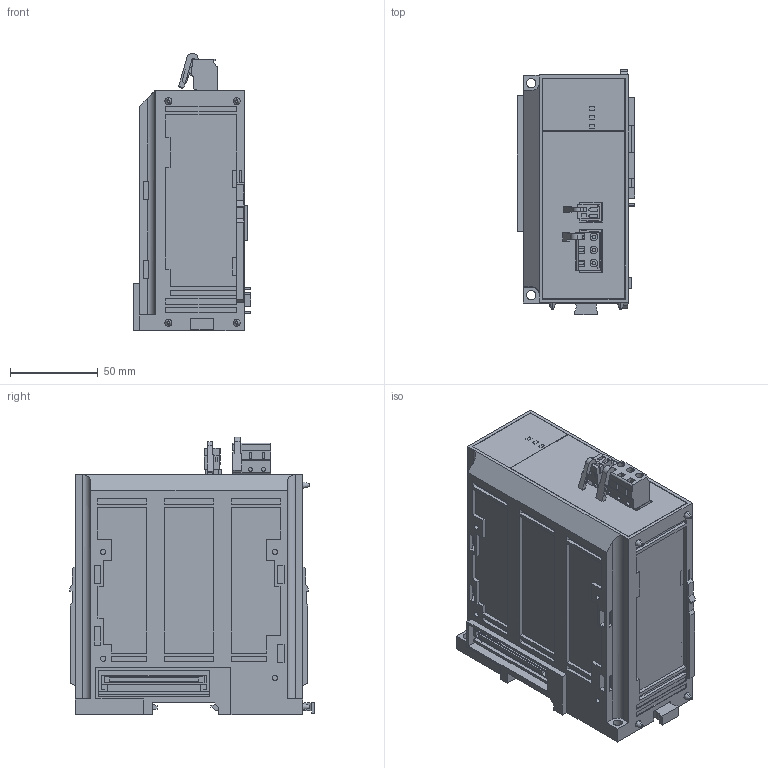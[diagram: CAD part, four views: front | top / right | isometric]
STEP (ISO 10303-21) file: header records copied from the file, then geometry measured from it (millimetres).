
FILE_DESCRIPTION (( 'STEP AP203' ), '1' );
FILE_NAME ('jepmc_psa3012_e.STEP', '2012-08-21T04:27:11', ( '匠エンジニアリング山之内' ), ( 'TAKUMI-Engniaring' ), 'SwSTEP 2.0', 'SolidWorks 2006303', '' );
FILE_SCHEMA (( 'CONFIG_CONTROL_DESIGN' ));
Length unit declared in the file: millimetre
Products named in the file (8): jepmc_psa3012_e_connector1; jepmc_psa3012_e_pin1; jepmc_psa3012_e_connector2; jepmc_psa3012_e_base; jepmc_psa3012_e_pin2; jepmc_psa3012_e
Assembly tree (7 placements, depth 3):
  jepmc_psa3012_e
    jepmc_psa3012_e_base
    jepmc_psa3012_e_connector2
      jepmc_psa3012_e_connector2
      jepmc_psa3012_e_pin2
    jepmc_psa3012_e_connector1
      jepmc_psa3012_e_connector1
      jepmc_psa3012_e_pin1
Bounding box: 67 x 140 x 158.35 mm (x, y, z)
Volume: 998199.5 mm3; surface area: 94052.6 mm2
Topology: 5 solids, 5 shells, 790 faces, 2143 edges, 1422 vertices
Faces by surface type: plane 723, cylinder 59, cone 8
Entity records: 25371 total; most frequent: CARTESIAN_POINT 4373, ORIENTED_EDGE 4286, DIRECTION 3887, EDGE_CURVE 2143, VECTOR 1999, LINE 1999, VERTEX_POINT 1422, AXIS2_PLACEMENT_3D 944
